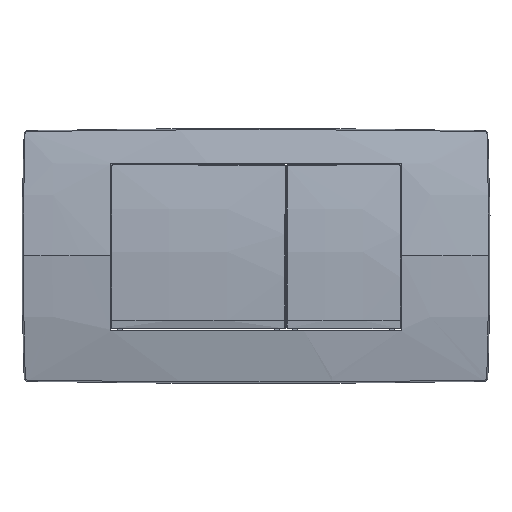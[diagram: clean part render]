
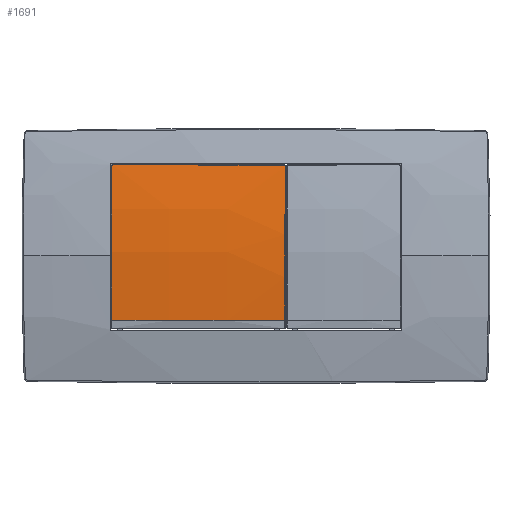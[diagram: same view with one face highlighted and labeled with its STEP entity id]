
A CAD part, front view. The second image highlights one B-rep face of the part: STEP entity #1691.
In plain terms, the highlighted toroidal (fillet/blend) face has major radius 1380.21 mm and minor radius 412 mm.
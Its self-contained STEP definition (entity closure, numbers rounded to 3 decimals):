
#1691 = ADVANCED_FACE( '', ( #3992 ), #3993, .T. );
#3992 = FACE_OUTER_BOUND( '', #7005, .T. );
#3993 = TOROIDAL_SURFACE( '', #7006, 1380.21, 412. );
#7005 = EDGE_LOOP( '', ( #11936, #11937, #11938, #11939, #11940, #11941, #11942, #11943 ) );
#7006 = AXIS2_PLACEMENT_3D( '', #11944, #11945, #11946 );
#11936 = ORIENTED_EDGE( '', *, *, #20065, .F. );
#11937 = ORIENTED_EDGE( '', *, *, #19347, .F. );
#11938 = ORIENTED_EDGE( '', *, *, #20066, .F. );
#11939 = ORIENTED_EDGE( '', *, *, #19903, .T. );
#11940 = ORIENTED_EDGE( '', *, *, #20067, .T. );
#11941 = ORIENTED_EDGE( '', *, *, #20068, .T. );
#11942 = ORIENTED_EDGE( '', *, *, #20069, .F. );
#11943 = ORIENTED_EDGE( '', *, *, #18759, .F. );
#11944 = CARTESIAN_POINT( '', ( -1779.21, -77.13, -42. ) );
#11945 = DIRECTION( '', ( 0., -1., 0. ) );
#11946 = DIRECTION( '', ( 0., 0., -1. ) );
#18759 = EDGE_CURVE( '', #22712, #22714, #22715, .T. );
#19347 = EDGE_CURVE( '', #23719, #23721, #23722, .T. );
#19903 = EDGE_CURVE( '', #24638, #24639, #24640, .T. );
#20065 = EDGE_CURVE( '', #23721, #22712, #24891, .F. );
#20066 = EDGE_CURVE( '', #24638, #23719, #24892, .T. );
#20067 = EDGE_CURVE( '', #24639, #24893, #24894, .T. );
#20068 = EDGE_CURVE( '', #24893, #24895, #24896, .T. );
#20069 = EDGE_CURVE( '', #22714, #24895, #24897, .T. );
#22712 = VERTEX_POINT( '', #28514 );
#22714 = VERTEX_POINT( '', #28517 );
#22715 = B_SPLINE_CURVE_WITH_KNOTS( '', 3, ( #28518, #28519, #28520, #28521, #28522, #28523, #28524, #28525, #28526, #28527 ), .UNSPECIFIED., .F., .F., ( 4, 2, 2, 2, 4 ), ( 0.005, 0.033, 0.062, 0.09, 0.118 ), .UNSPECIFIED. );
#23719 = VERTEX_POINT( '', #30202 );
#23721 = VERTEX_POINT( '', #30205 );
#23722 = B_SPLINE_CURVE_WITH_KNOTS( '', 3, ( #30206, #30207, #30208, #30209, #30210, #30211, #30212, #30213, #30214, #30215 ), .UNSPECIFIED., .F., .F., ( 4, 2, 2, 2, 4 ), ( 0.001, 0.029, 0.057, 0.085, 0.114 ), .UNSPECIFIED. );
#24638 = VERTEX_POINT( '', #31711 );
#24639 = VERTEX_POINT( '', #31712 );
#24640 = B_SPLINE_CURVE_WITH_KNOTS( '', 3, ( #31713, #31714, #31715, #31716, #31717, #31718, #31719, #31720, #31721, #31722 ), .UNSPECIFIED., .F., .F., ( 4, 2, 2, 2, 4 ), ( 0., 0., 0.001, 0.001, 0.001 ), .UNSPECIFIED. );
#24891 = CIRCLE( '', #32180, 1790.61 );
#24892 = B_SPLINE_CURVE_WITH_KNOTS( '', 3, ( #32181, #32182, #32183, #32184 ), .UNSPECIFIED., .F., .F., ( 4, 4 ), ( 0., 0. ), .UNSPECIFIED. );
#24893 = VERTEX_POINT( '', #32185 );
#24894 = B_SPLINE_CURVE_WITH_KNOTS( '', 3, ( #32186, #32187, #32188, #32189 ), .UNSPECIFIED., .F., .F., ( 4, 4 ), ( 0., 0.125 ), .UNSPECIFIED. );
#24895 = VERTEX_POINT( '', #32190 );
#24896 = B_SPLINE_CURVE_WITH_KNOTS( '', 3, ( #32191, #32192, #32193, #32194, #32195, #32196, #32197, #32198, #32199, #32200 ), .UNSPECIFIED., .F., .F., ( 4, 2, 2, 2, 4 ), ( 0., 0., 0.001, 0.001, 0.002 ), .UNSPECIFIED. );
#24897 = B_SPLINE_CURVE_WITH_KNOTS( '', 3, ( #32201, #32202, #32203, #32204 ), .UNSPECIFIED., .F., .F., ( 4, 4 ), ( 0., 0. ), .UNSPECIFIED. );
#28514 = CARTESIAN_POINT( '', ( 8.307, -113.4, 63.21 ) );
#28517 = CARTESIAN_POINT( '', ( 2.809, -1.098, 63.402 ) );
#28518 = CARTESIAN_POINT( '', ( 8.307, -113.4, 63.21 ) );
#28519 = CARTESIAN_POINT( '', ( 9.142, -103.987, 63.181 ) );
#28520 = CARTESIAN_POINT( '', ( 9.649, -94.587, 63.163 ) );
#28521 = CARTESIAN_POINT( '', ( 10.018, -75.815, 63.15 ) );
#28522 = CARTESIAN_POINT( '', ( 9.88, -66.443, 63.155 ) );
#28523 = CARTESIAN_POINT( '', ( 8.965, -47.726, 63.187 ) );
#28524 = CARTESIAN_POINT( '', ( 8.187, -38.381, 63.214 ) );
#28525 = CARTESIAN_POINT( '', ( 5.986, -19.719, 63.291 ) );
#28526 = CARTESIAN_POINT( '', ( 4.563, -10.402, 63.341 ) );
#28527 = CARTESIAN_POINT( '', ( 2.809, -1.098, 63.402 ) );
#30202 = CARTESIAN_POINT( '', ( 5.816, -1.203, -63.297 ) );
#30205 = CARTESIAN_POINT( '', ( 11.276, -113.4, -63.106 ) );
#30206 = CARTESIAN_POINT( '', ( 5.816, -1.203, -63.297 ) );
#30207 = CARTESIAN_POINT( '', ( 7.56, -10.497, -63.236 ) );
#30208 = CARTESIAN_POINT( '', ( 8.975, -19.805, -63.187 ) );
#30209 = CARTESIAN_POINT( '', ( 11.163, -38.449, -63.11 ) );
#30210 = CARTESIAN_POINT( '', ( 11.936, -47.785, -63.083 ) );
#30211 = CARTESIAN_POINT( '', ( 12.845, -66.484, -63.051 ) );
#30212 = CARTESIAN_POINT( '', ( 12.981, -75.848, -63.047 ) );
#30213 = CARTESIAN_POINT( '', ( 12.612, -94.603, -63.06 ) );
#30214 = CARTESIAN_POINT( '', ( 12.108, -103.994, -63.077 ) );
#30215 = CARTESIAN_POINT( '', ( 11.276, -113.4, -63.106 ) );
#31711 = CARTESIAN_POINT( '', ( 5.817, -1.203, -63.271 ) );
#31712 = CARTESIAN_POINT( '', ( 5.636, -0.197, -62.5 ) );
#31713 = CARTESIAN_POINT( '', ( 5.817, -1.203, -63.271 ) );
#31714 = CARTESIAN_POINT( '', ( 5.794, -1.085, -63.302 ) );
#31715 = CARTESIAN_POINT( '', ( 5.771, -0.962, -63.307 ) );
#31716 = CARTESIAN_POINT( '', ( 5.727, -0.725, -63.261 ) );
#31717 = CARTESIAN_POINT( '', ( 5.706, -0.611, -63.21 ) );
#31718 = CARTESIAN_POINT( '', ( 5.671, -0.417, -63.064 ) );
#31719 = CARTESIAN_POINT( '', ( 5.657, -0.336, -62.968 ) );
#31720 = CARTESIAN_POINT( '', ( 5.638, -0.226, -62.746 ) );
#31721 = CARTESIAN_POINT( '', ( 5.634, -0.197, -62.624 ) );
#31722 = CARTESIAN_POINT( '', ( 5.636, -0.197, -62.5 ) );
#32180 = AXIS2_PLACEMENT_3D( '', #38931, #38932, #38933 );
#32181 = CARTESIAN_POINT( '', ( 5.817, -1.203, -63.271 ) );
#32182 = CARTESIAN_POINT( '', ( 5.817, -1.203, -63.279 ) );
#32183 = CARTESIAN_POINT( '', ( 5.816, -1.203, -63.288 ) );
#32184 = CARTESIAN_POINT( '', ( 5.816, -1.203, -63.297 ) );
#32185 = CARTESIAN_POINT( '', ( 2.672, -0.093, 62.5 ) );
#32186 = CARTESIAN_POINT( '', ( 5.636, -0.197, -62.5 ) );
#32187 = CARTESIAN_POINT( '', ( 6.118, -0.214, -20.798 ) );
#32188 = CARTESIAN_POINT( '', ( 5.13, -0.179, 20.868 ) );
#32189 = CARTESIAN_POINT( '', ( 2.672, -0.093, 62.5 ) );
#32190 = CARTESIAN_POINT( '', ( 2.81, -1.098, 63.397 ) );
#32191 = CARTESIAN_POINT( '', ( 2.672, -0.093, 62.5 ) );
#32192 = CARTESIAN_POINT( '', ( 2.665, -0.093, 62.628 ) );
#32193 = CARTESIAN_POINT( '', ( 2.662, -0.12, 62.755 ) );
#32194 = CARTESIAN_POINT( '', ( 2.668, -0.225, 62.987 ) );
#32195 = CARTESIAN_POINT( '', ( 2.677, -0.302, 63.092 ) );
#32196 = CARTESIAN_POINT( '', ( 2.703, -0.492, 63.26 ) );
#32197 = CARTESIAN_POINT( '', ( 2.721, -0.604, 63.324 ) );
#32198 = CARTESIAN_POINT( '', ( 2.762, -0.847, 63.399 ) );
#32199 = CARTESIAN_POINT( '', ( 2.785, -0.973, 63.411 ) );
#32200 = CARTESIAN_POINT( '', ( 2.81, -1.098, 63.397 ) );
#32201 = CARTESIAN_POINT( '', ( 2.809, -1.098, 63.402 ) );
#32202 = CARTESIAN_POINT( '', ( 2.809, -1.098, 63.4 ) );
#32203 = CARTESIAN_POINT( '', ( 2.809, -1.098, 63.398 ) );
#32204 = CARTESIAN_POINT( '', ( 2.81, -1.098, 63.397 ) );
#38931 = CARTESIAN_POINT( '', ( -1779.21, -113.4, -42. ) );
#38932 = DIRECTION( '', ( 0., 1., 0. ) );
#38933 = DIRECTION( '', ( 0., 0., 1. ) );
